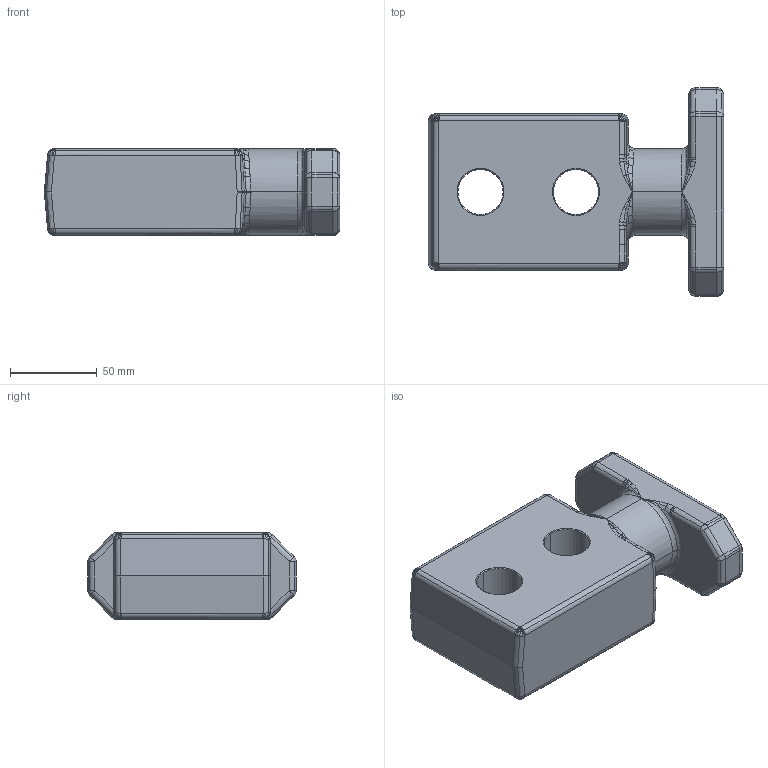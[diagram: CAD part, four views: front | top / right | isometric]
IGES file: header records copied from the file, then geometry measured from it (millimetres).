
Global section: file name: E:\UnigraphicsGraphicData\MISUMI_PRESS-PARTS\IGES\3d_chpl50_03560_r00.igs; native system: NX V5.0; preprocessor: UGS NX IGES V5.0; author: MISUMI; date: 20110105.160238; units: millimetre
Bounding box: 170 x 120 x 50 mm (x, y, z)
Surface area: 62288.6 mm2 (no closed solid volume)
Topology: 0 solids, 0 shells, 417 faces, 2313 edges, 2258 vertices
Faces by surface type: bspline 417
